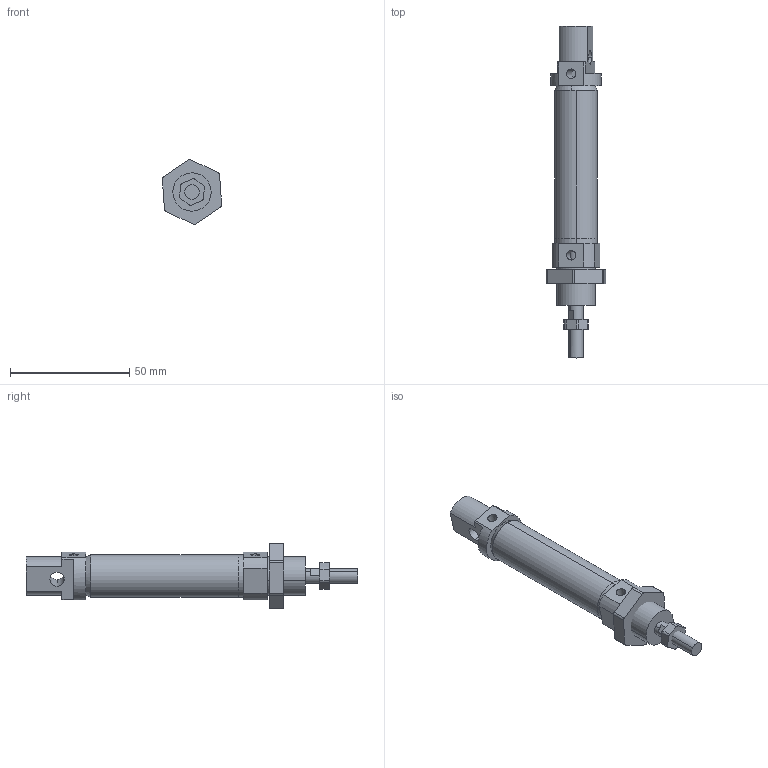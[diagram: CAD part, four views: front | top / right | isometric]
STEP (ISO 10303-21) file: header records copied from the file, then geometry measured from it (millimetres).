
FILE_DESCRIPTION (( 'STEP AP214' ), '1' );
FILE_NAME ('RMA_16_25_WEB.STEP', '2021-05-09T12:33:28', ( '' ), ( '' ), 'SwSTEP 2.0', 'SolidWorks 2021', '' );
FILE_SCHEMA (( 'AUTOMOTIVE_DESIGN' ));
Length unit declared in the file: millimetre
Products named in the file (7): RMA16 KÜÇÜK CÝVATA; RMA_16_25_WEB; RMA_16_BORU_WEB; RMA16ARKA; RMA16CÝVATA; RMA16KAPAK; RMA_16_M尳_WEB
Assembly tree (6 placements, depth 2):
  RMA_16_25_WEB
    RMA_16_BORU_WEB
    RMA16KAPAK
    RMA16ARKA
    RMA16CÝVATA
    RMA_16_M尳_WEB
    RMA16 KÜÇÜK CÝVATA
Bounding box: 24.85 x 139 x 27.33 mm (x, y, z)
Volume: 18523.1 mm3; surface area: 14995.8 mm2
Topology: 6 solids, 6 shells, 99 faces, 243 edges, 162 vertices
Faces by surface type: plane 48, cylinder 47, cone 4
Entity records: 3454 total; most frequent: CARTESIAN_POINT 571, DIRECTION 569, ORIENTED_EDGE 486, EDGE_CURVE 243, AXIS2_PLACEMENT_3D 220, VERTEX_POINT 162, VECTOR 129, LINE 129
